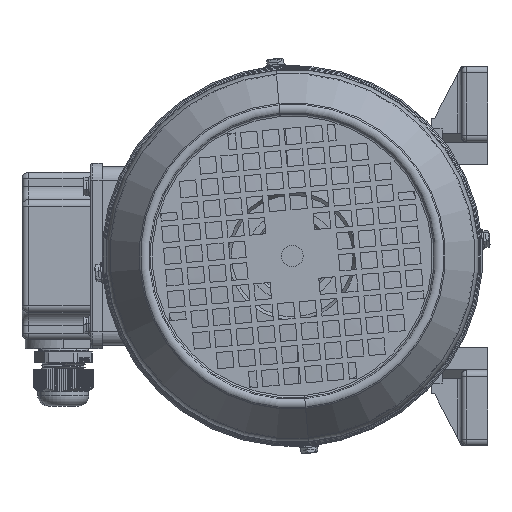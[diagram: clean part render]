
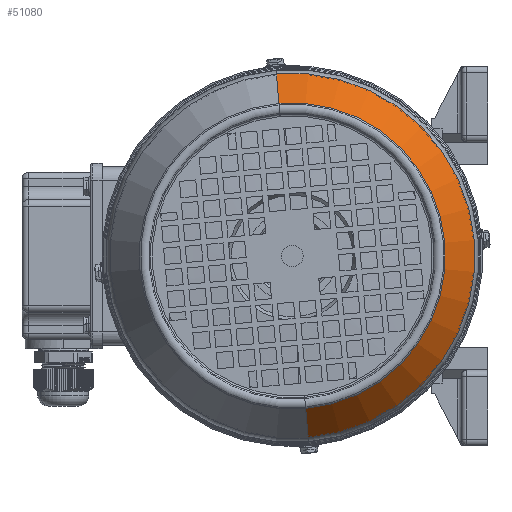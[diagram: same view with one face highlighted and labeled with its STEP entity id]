
A CAD part, left-side view. The second image highlights one B-rep face of the part: STEP entity #51080.
In plain terms, the highlighted conical face has half-angle 32.805 degrees and reference radius 85.75 mm.
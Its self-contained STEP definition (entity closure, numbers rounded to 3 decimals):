
#9832 = ORIENTED_EDGE ( 'NONE', *, *, #113972, .F. ) ;
#11610 = CARTESIAN_POINT ( 'NONE',  ( -59.474, 0., 84.155 ) ) ;
#15351 = ORIENTED_EDGE ( 'NONE', *, *, #98747, .T. ) ;
#25500 = LINE ( 'NONE', #70829, #116458 ) ;
#28998 = CARTESIAN_POINT ( 'NONE',  ( -80.625, 0., 70.522 ) ) ;
#37486 = EDGE_CURVE ( 'NONE', #60957, #102899, #87316, .T. ) ;
#41383 = CARTESIAN_POINT ( 'NONE',  ( -80.625, 0., -70.522 ) ) ;
#41797 = DIRECTION ( 'NONE',  ( -1., 0., 0. ) ) ;
#42074 = VERTEX_POINT ( 'NONE', #28998 ) ;
#42569 = CARTESIAN_POINT ( 'NONE',  ( -57., 0., 0. ) ) ;
#47700 = AXIS2_PLACEMENT_3D ( 'NONE', #42569, #70448, #108982 ) ;
#49857 = DIRECTION ( 'NONE',  ( 0., 0., 1. ) ) ;
#50861 = CARTESIAN_POINT ( 'NONE',  ( -80.625, 0., 0. ) ) ;
#51080 = ADVANCED_FACE ( 'NONE', ( #74345 ), #90543, .T. ) ;
#60957 = VERTEX_POINT ( 'NONE', #41383 ) ;
#69257 = EDGE_LOOP ( 'NONE', ( #105720, #9832, #71367, #15351 ) ) ;
#70448 = DIRECTION ( 'NONE',  ( 1., 0., 0. ) ) ;
#70829 = CARTESIAN_POINT ( 'NONE',  ( -57., 0., 85.75 ) ) ;
#71367 = ORIENTED_EDGE ( 'NONE', *, *, #37486, .T. ) ;
#74345 = FACE_OUTER_BOUND ( 'NONE', #69257, .T. ) ;
#77048 = CIRCLE ( 'NONE', #79559, 70.522 ) ;
#78708 = DIRECTION ( 'NONE',  ( 0., 0., 1. ) ) ;
#79559 = AXIS2_PLACEMENT_3D ( 'NONE', #50861, #41797, #78708 ) ;
#80667 = DIRECTION ( 'NONE',  ( 0.841, 0., 0.542 ) ) ;
#86743 = CARTESIAN_POINT ( 'NONE',  ( -59.474, 0., 0. ) ) ;
#87316 = LINE ( 'NONE', #119826, #119705 ) ;
#90543 = CONICAL_SURFACE ( 'NONE', #47700, 85.75, 0.573 ) ;
#96133 = DIRECTION ( 'NONE',  ( -1., 0., 0. ) ) ;
#98747 = EDGE_CURVE ( 'NONE', #102899, #113187, #101135, .T. ) ;
#101135 = CIRCLE ( 'NONE', #114784, 84.155 ) ;
#102899 = VERTEX_POINT ( 'NONE', #115792 ) ;
#105720 = ORIENTED_EDGE ( 'NONE', *, *, #107122, .F. ) ;
#107122 = EDGE_CURVE ( 'NONE', #42074, #113187, #25500, .T. ) ;
#108771 = DIRECTION ( 'NONE',  ( 0.841, 0., -0.542 ) ) ;
#108982 = DIRECTION ( 'NONE',  ( 0., 0., -1. ) ) ;
#113187 = VERTEX_POINT ( 'NONE', #11610 ) ;
#113972 = EDGE_CURVE ( 'NONE', #60957, #42074, #77048, .T. ) ;
#114784 = AXIS2_PLACEMENT_3D ( 'NONE', #86743, #96133, #49857 ) ;
#115792 = CARTESIAN_POINT ( 'NONE',  ( -59.474, 0., -84.155 ) ) ;
#116458 = VECTOR ( 'NONE', #80667, 1000. ) ;
#119705 = VECTOR ( 'NONE', #108771, 1000. ) ;
#119826 = CARTESIAN_POINT ( 'NONE',  ( -57., 0., -85.75 ) ) ;
